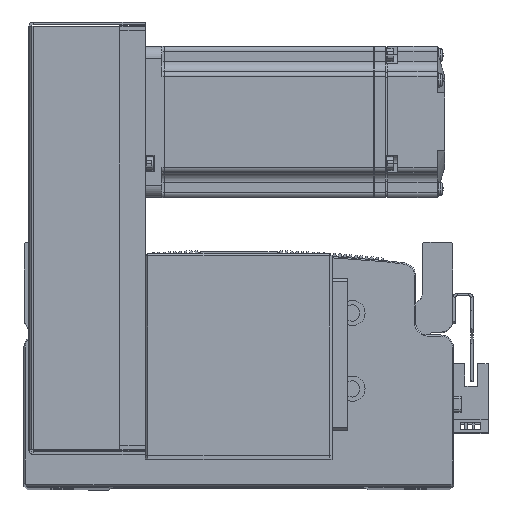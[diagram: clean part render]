
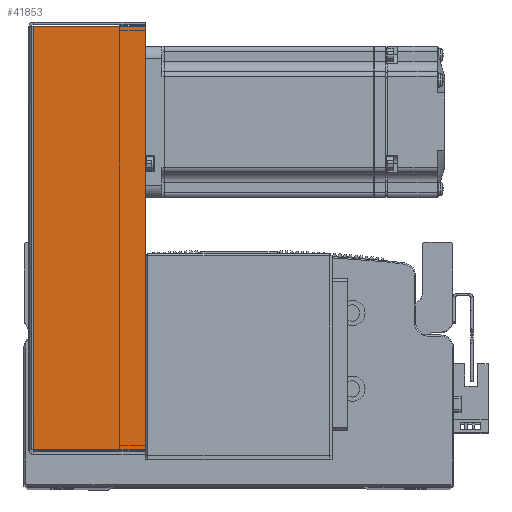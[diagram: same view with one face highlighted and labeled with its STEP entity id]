
A CAD part, top view. The second image highlights one B-rep face of the part: STEP entity #41853.
In plain terms, the highlighted planar face has unit normal (0, 0, 1) as drawn and (0, 0, -1) by its records, which use the part's own axes.
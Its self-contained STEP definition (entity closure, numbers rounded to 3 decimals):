
#1765 = AXIS2_PLACEMENT_3D ( 'NONE', #18618, #18622, #18623 ) ;
#16389 = FACE_OUTER_BOUND ( 'NONE', #38600, .T. ) ;
#18615 = PLANE ( 'NONE',  #1765 ) ;
#18618 = CARTESIAN_POINT ( 'NONE',  ( 0., 0., -40.5 ) ) ;
#18622 = DIRECTION ( 'NONE',  ( 0., 0., 1. ) ) ;
#18623 = DIRECTION ( 'NONE',  ( 0., -1., 0. ) ) ;
#37408 = LINE ( 'NONE', #39570, #37421 ) ;
#37421 = VECTOR ( 'NONE', #39535, 1000. ) ;
#37430 = LINE ( 'NONE', #39417, #37459 ) ;
#37459 = VECTOR ( 'NONE', #39427, 1000. ) ;
#37473 = VECTOR ( 'NONE', #39532, 1000. ) ;
#37478 = VECTOR ( 'NONE', #39750, 1000. ) ;
#37482 = LINE ( 'NONE', #39742, #37478 ) ;
#37485 = LINE ( 'NONE', #39530, #37473 ) ;
#38600 = EDGE_LOOP ( 'NONE', ( #57466, #57501, #57474, #57475 ) ) ;
#39417 = CARTESIAN_POINT ( 'NONE',  ( 0., 0.737, -40.5 ) ) ;
#39427 = DIRECTION ( 'NONE',  ( 1., 0., 0. ) ) ;
#39530 = CARTESIAN_POINT ( 'NONE',  ( 84.5, 45., -40.5 ) ) ;
#39532 = DIRECTION ( 'NONE',  ( 1., 0., 0. ) ) ;
#39535 = DIRECTION ( 'NONE',  ( 0., 1., 0. ) ) ;
#39570 = CARTESIAN_POINT ( 'NONE',  ( 83.793, 0., -40.5 ) ) ;
#39742 = CARTESIAN_POINT ( 'NONE',  ( -83.793, 0., -40.5 ) ) ;
#39750 = DIRECTION ( 'NONE',  ( 0., 1., 0. ) ) ;
#41853 = ADVANCED_FACE ( 'NONE', ( #16389 ), #18615, .F. ) ;
#47692 = EDGE_CURVE ( 'NONE', #53570, #53485, #37430, .T. ) ;
#47698 = EDGE_CURVE ( 'NONE', #53485, #53657, #37408, .T. ) ;
#47726 = EDGE_CURVE ( 'NONE', #53626, #53657, #37485, .T. ) ;
#47749 = EDGE_CURVE ( 'NONE', #53570, #53626, #37482, .T. ) ;
#52249 = CARTESIAN_POINT ( 'NONE',  ( 83.793, 45., -40.5 ) ) ;
#53485 = VERTEX_POINT ( 'NONE', #53920 ) ;
#53570 = VERTEX_POINT ( 'NONE', #53998 ) ;
#53626 = VERTEX_POINT ( 'NONE', #54045 ) ;
#53657 = VERTEX_POINT ( 'NONE', #52249 ) ;
#53920 = CARTESIAN_POINT ( 'NONE',  ( 83.793, 0.737, -40.5 ) ) ;
#53998 = CARTESIAN_POINT ( 'NONE',  ( -83.793, 0.737, -40.5 ) ) ;
#54045 = CARTESIAN_POINT ( 'NONE',  ( -83.793, 45., -40.5 ) ) ;
#57466 = ORIENTED_EDGE ( 'NONE', *, *, #47692, .F. ) ;
#57474 = ORIENTED_EDGE ( 'NONE', *, *, #47726, .T. ) ;
#57475 = ORIENTED_EDGE ( 'NONE', *, *, #47698, .F. ) ;
#57501 = ORIENTED_EDGE ( 'NONE', *, *, #47749, .T. ) ;
